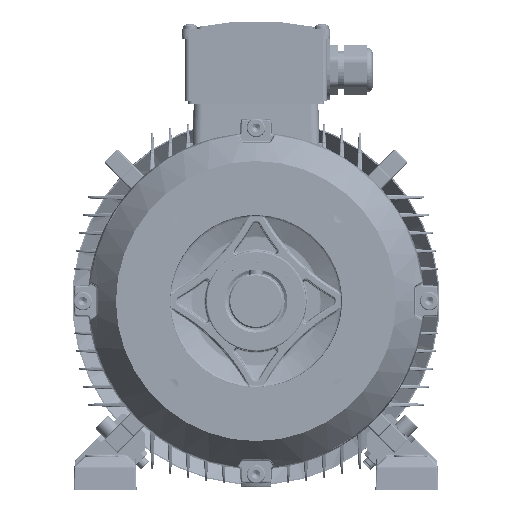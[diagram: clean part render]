
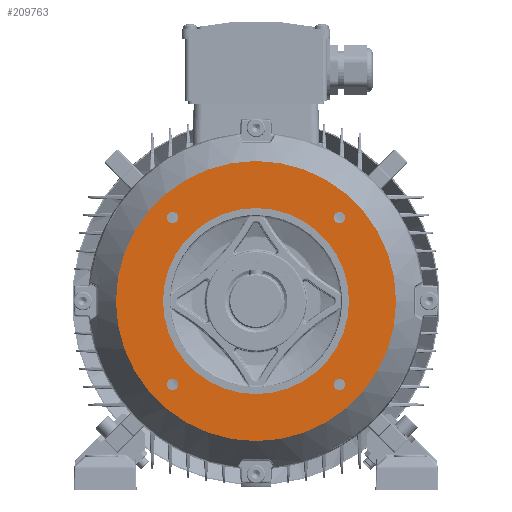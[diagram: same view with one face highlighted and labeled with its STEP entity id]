
A CAD part, left-side view. The second image highlights one B-rep face of the part: STEP entity #209763.
In plain terms, the highlighted planar face has unit normal (-1, 0, 0).
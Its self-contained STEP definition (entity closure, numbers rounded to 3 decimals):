
#1049 = DIRECTION ( 'NONE',  ( 1., 0., 0. ) ) ;
#2544 = CIRCLE ( 'NONE', #6708, 4.012 ) ;
#5659 = EDGE_CURVE ( 'NONE', #20771, #289002, #11644, .T. ) ;
#6708 = AXIS2_PLACEMENT_3D ( 'NONE', #65312, #246631, #91427 ) ;
#8049 = ORIENTED_EDGE ( 'NONE', *, *, #249668, .T. ) ;
#8817 = CARTESIAN_POINT ( 'NONE',  ( -292.908, -159.17, 58.336 ) ) ;
#10263 = VERTEX_POINT ( 'NONE', #158498 ) ;
#11512 = CARTESIAN_POINT ( 'NONE',  ( -292.908, -217.506, 0. ) ) ;
#11644 = CIRCLE ( 'NONE', #247045, 4.012 ) ;
#13024 = EDGE_LOOP ( 'NONE', ( #314809, #286286 ) ) ;
#14546 = PLANE ( 'NONE',  #332126 ) ;
#15911 = CARTESIAN_POINT ( 'NONE',  ( -292.908, -159.17, -62.348 ) ) ;
#18657 = CARTESIAN_POINT ( 'NONE',  ( -292.908, -275.842, -62.348 ) ) ;
#20650 = VERTEX_POINT ( 'NONE', #280726 ) ;
#20771 = VERTEX_POINT ( 'NONE', #170495 ) ;
#25542 = CIRCLE ( 'NONE', #59675, 4.012 ) ;
#27627 = AXIS2_PLACEMENT_3D ( 'NONE', #105654, #286955, #131648 ) ;
#29093 = EDGE_CURVE ( 'NONE', #181372, #20650, #87633, .T. ) ;
#29659 = FACE_BOUND ( 'NONE', #13024, .T. ) ;
#34784 = DIRECTION ( 'NONE',  ( 0., 0., -1. ) ) ;
#37482 = DIRECTION ( 'NONE',  ( 0., 0., -1. ) ) ;
#40227 = EDGE_CURVE ( 'NONE', #276760, #156931, #200426, .T. ) ;
#51305 = CARTESIAN_POINT ( 'NONE',  ( -292.908, -217.506, 0. ) ) ;
#52794 = CIRCLE ( 'NONE', #161803, 65. ) ;
#59675 = AXIS2_PLACEMENT_3D ( 'NONE', #266557, #111273, #292560 ) ;
#60722 = DIRECTION ( 'NONE',  ( 1., 0., 0. ) ) ;
#65312 = CARTESIAN_POINT ( 'NONE',  ( -292.908, -275.842, 58.336 ) ) ;
#66588 = DIRECTION ( 'NONE',  ( -1., 0., 0. ) ) ;
#66861 = VERTEX_POINT ( 'NONE', #118668 ) ;
#75753 = CARTESIAN_POINT ( 'NONE',  ( -292.908, -217.506, 65. ) ) ;
#77094 = DIRECTION ( 'NONE',  ( 1., 0., 0. ) ) ;
#77363 = DIRECTION ( 'NONE',  ( 0., 0., -1. ) ) ;
#81974 = CIRCLE ( 'NONE', #236949, 4.012 ) ;
#87633 = CIRCLE ( 'NONE', #235409, 4.012 ) ;
#88706 = ORIENTED_EDGE ( 'NONE', *, *, #195837, .T. ) ;
#90440 = FACE_OUTER_BOUND ( 'NONE', #125090, .T. ) ;
#91427 = DIRECTION ( 'NONE',  ( 0., 0., -1. ) ) ;
#97363 = VERTEX_POINT ( 'NONE', #15911 ) ;
#98558 = FACE_BOUND ( 'NONE', #139084, .T. ) ;
#101350 = EDGE_LOOP ( 'NONE', ( #134105, #258629 ) ) ;
#101839 = CARTESIAN_POINT ( 'NONE',  ( -292.908, -275.842, 62.348 ) ) ;
#101962 = DIRECTION ( 'NONE',  ( 1., 0., 0. ) ) ;
#102761 = AXIS2_PLACEMENT_3D ( 'NONE', #215936, #60722, #242043 ) ;
#102908 = CARTESIAN_POINT ( 'NONE',  ( -292.908, -159.17, 62.348 ) ) ;
#104027 = CIRCLE ( 'NONE', #153427, 4.012 ) ;
#105654 = CARTESIAN_POINT ( 'NONE',  ( -292.908, -159.17, -58.336 ) ) ;
#109113 = AXIS2_PLACEMENT_3D ( 'NONE', #11512, #192763, #37482 ) ;
#111273 = DIRECTION ( 'NONE',  ( -1., 0., 0. ) ) ;
#116758 = VERTEX_POINT ( 'NONE', #102908 ) ;
#118035 = DIRECTION ( 'NONE',  ( 1., 0., 0. ) ) ;
#118076 = EDGE_CURVE ( 'NONE', #97363, #10263, #25542, .T. ) ;
#118668 = CARTESIAN_POINT ( 'NONE',  ( -292.908, -159.17, 54.324 ) ) ;
#121276 = EDGE_LOOP ( 'NONE', ( #165862, #155550 ) ) ;
#125090 = EDGE_LOOP ( 'NONE', ( #317788, #309199 ) ) ;
#125992 = CIRCLE ( 'NONE', #169016, 97.867 ) ;
#129839 = CARTESIAN_POINT ( 'NONE',  ( -292.908, -217.506, 0. ) ) ;
#131648 = DIRECTION ( 'NONE',  ( 0., 0., -1. ) ) ;
#134105 = ORIENTED_EDGE ( 'NONE', *, *, #253327, .T. ) ;
#135157 = CIRCLE ( 'NONE', #311260, 4.012 ) ;
#139084 = EDGE_LOOP ( 'NONE', ( #88706, #300058 ) ) ;
#140659 = VERTEX_POINT ( 'NONE', #191970 ) ;
#153427 = AXIS2_PLACEMENT_3D ( 'NONE', #156096, #1049, #182260 ) ;
#155550 = ORIENTED_EDGE ( 'NONE', *, *, #155893, .F. ) ;
#155864 = DIRECTION ( 'NONE',  ( 0., 0., -1. ) ) ;
#155893 = EDGE_CURVE ( 'NONE', #10263, #97363, #322981, .T. ) ;
#156096 = CARTESIAN_POINT ( 'NONE',  ( -292.908, -159.17, 58.336 ) ) ;
#156931 = VERTEX_POINT ( 'NONE', #177146 ) ;
#158498 = CARTESIAN_POINT ( 'NONE',  ( -292.908, -159.17, -54.324 ) ) ;
#158689 = VERTEX_POINT ( 'NONE', #277428 ) ;
#159270 = FACE_BOUND ( 'NONE', #300100, .T. ) ;
#161803 = AXIS2_PLACEMENT_3D ( 'NONE', #51305, #232632, #77363 ) ;
#165862 = ORIENTED_EDGE ( 'NONE', *, *, #118076, .F. ) ;
#169016 = AXIS2_PLACEMENT_3D ( 'NONE', #129839, #311159, #155864 ) ;
#170495 = CARTESIAN_POINT ( 'NONE',  ( -292.908, -275.842, -54.324 ) ) ;
#177146 = CARTESIAN_POINT ( 'NONE',  ( -292.908, -217.506, -65. ) ) ;
#181372 = VERTEX_POINT ( 'NONE', #101839 ) ;
#182260 = DIRECTION ( 'NONE',  ( 0., 0., -1. ) ) ;
#190049 = DIRECTION ( 'NONE',  ( 1., 0., 0. ) ) ;
#191970 = CARTESIAN_POINT ( 'NONE',  ( -292.908, -217.506, -97.867 ) ) ;
#192763 = DIRECTION ( 'NONE',  ( -1., 0., 0. ) ) ;
#193960 = ORIENTED_EDGE ( 'NONE', *, *, #29093, .T. ) ;
#195837 = EDGE_CURVE ( 'NONE', #66861, #116758, #104027, .T. ) ;
#200426 = CIRCLE ( 'NONE', #102761, 65. ) ;
#209763 = ADVANCED_FACE ( 'NONE', ( #305261, #98558, #29659, #228224, #159270, #90440 ), #14546, .T. ) ;
#210772 = EDGE_CURVE ( 'NONE', #116758, #66861, #81974, .T. ) ;
#215936 = CARTESIAN_POINT ( 'NONE',  ( -292.908, -217.506, 0. ) ) ;
#221868 = CARTESIAN_POINT ( 'NONE',  ( -292.908, -316.548, -99.042 ) ) ;
#228224 = FACE_BOUND ( 'NONE', #121276, .T. ) ;
#232319 = CARTESIAN_POINT ( 'NONE',  ( -292.908, -275.842, -58.336 ) ) ;
#232632 = DIRECTION ( 'NONE',  ( 1., 0., 0. ) ) ;
#235409 = AXIS2_PLACEMENT_3D ( 'NONE', #257170, #101962, #283299 ) ;
#236949 = AXIS2_PLACEMENT_3D ( 'NONE', #8817, #190049, #34784 ) ;
#242043 = DIRECTION ( 'NONE',  ( 0., 0., -1. ) ) ;
#245244 = EDGE_CURVE ( 'NONE', #156931, #276760, #52794, .T. ) ;
#246631 = DIRECTION ( 'NONE',  ( 1., 0., 0. ) ) ;
#247045 = AXIS2_PLACEMENT_3D ( 'NONE', #273387, #118035, #299376 ) ;
#247896 = DIRECTION ( 'NONE',  ( 0., 0., 1. ) ) ;
#249668 = EDGE_CURVE ( 'NONE', #20650, #181372, #2544, .T. ) ;
#253327 = EDGE_CURVE ( 'NONE', #289002, #20771, #135157, .T. ) ;
#257170 = CARTESIAN_POINT ( 'NONE',  ( -292.908, -275.842, 58.336 ) ) ;
#258348 = DIRECTION ( 'NONE',  ( 0., 0., -1. ) ) ;
#258629 = ORIENTED_EDGE ( 'NONE', *, *, #5659, .T. ) ;
#266557 = CARTESIAN_POINT ( 'NONE',  ( -292.908, -159.17, -58.336 ) ) ;
#273387 = CARTESIAN_POINT ( 'NONE',  ( -292.908, -275.842, -58.336 ) ) ;
#276760 = VERTEX_POINT ( 'NONE', #75753 ) ;
#277428 = CARTESIAN_POINT ( 'NONE',  ( -292.908, -217.506, 97.867 ) ) ;
#280726 = CARTESIAN_POINT ( 'NONE',  ( -292.908, -275.842, 54.324 ) ) ;
#283299 = DIRECTION ( 'NONE',  ( 0., 0., -1. ) ) ;
#286286 = ORIENTED_EDGE ( 'NONE', *, *, #40227, .T. ) ;
#286955 = DIRECTION ( 'NONE',  ( -1., 0., 0. ) ) ;
#289002 = VERTEX_POINT ( 'NONE', #18657 ) ;
#292560 = DIRECTION ( 'NONE',  ( 0., 0., -1. ) ) ;
#296895 = EDGE_CURVE ( 'NONE', #158689, #140659, #125992, .T. ) ;
#299376 = DIRECTION ( 'NONE',  ( 0., 0., -1. ) ) ;
#300058 = ORIENTED_EDGE ( 'NONE', *, *, #210772, .T. ) ;
#300100 = EDGE_LOOP ( 'NONE', ( #8049, #193960 ) ) ;
#305261 = FACE_BOUND ( 'NONE', #101350, .T. ) ;
#309199 = ORIENTED_EDGE ( 'NONE', *, *, #296895, .T. ) ;
#311159 = DIRECTION ( 'NONE',  ( -1., 0., 0. ) ) ;
#311260 = AXIS2_PLACEMENT_3D ( 'NONE', #232319, #77094, #258348 ) ;
#314809 = ORIENTED_EDGE ( 'NONE', *, *, #245244, .T. ) ;
#317788 = ORIENTED_EDGE ( 'NONE', *, *, #330517, .T. ) ;
#322981 = CIRCLE ( 'NONE', #27627, 4.012 ) ;
#327070 = CIRCLE ( 'NONE', #109113, 97.867 ) ;
#330517 = EDGE_CURVE ( 'NONE', #140659, #158689, #327070, .T. ) ;
#332126 = AXIS2_PLACEMENT_3D ( 'NONE', #221868, #66588, #247896 ) ;
